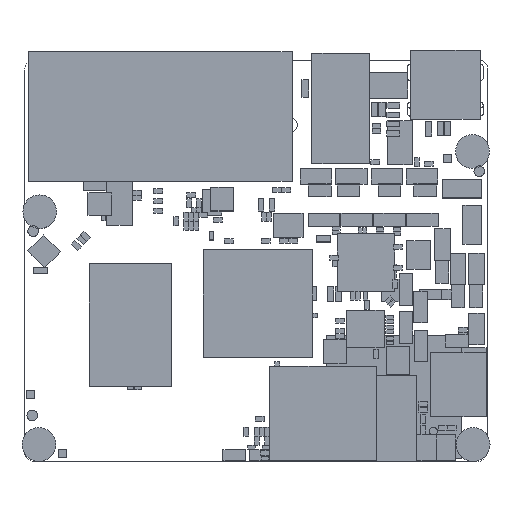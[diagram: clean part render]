
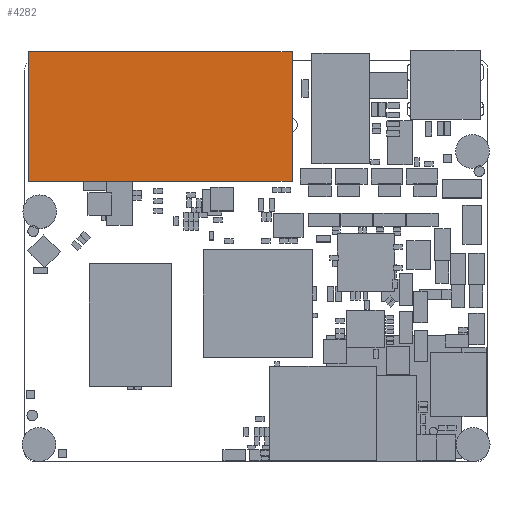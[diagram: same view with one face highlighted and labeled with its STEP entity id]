
A CAD part, top view. The second image highlights one B-rep face of the part: STEP entity #4282.
In plain terms, the highlighted planar face has unit normal (0, 0, 1).
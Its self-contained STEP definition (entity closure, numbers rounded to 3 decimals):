
#3129=FACE_OUTER_BOUND($,#3624,.F.);
#3624=EDGE_LOOP($,(#8764,#8765,#8766,#8767));
#3895=PLANE($,#6919);
#4282=ADVANCED_FACE($,(#3129),#3895,.T.);
#4976=VECTOR($,#12392,32.512);
#4977=VECTOR($,#12393,16.002);
#4978=VECTOR($,#12394,32.512);
#4979=VECTOR($,#12395,16.002);
#5749=LINE($,#13966,#4976);
#5750=LINE($,#13967,#4977);
#5751=LINE($,#13968,#4978);
#5752=LINE($,#13969,#4979);
#6919=AXIS2_PLACEMENT_3D($,#13967,#11384,$);
#8764=ORIENTED_EDGE($,*,*,#9893,.T.);
#8765=ORIENTED_EDGE($,*,*,#9894,.T.);
#8766=ORIENTED_EDGE($,*,*,#9895,.T.);
#8767=ORIENTED_EDGE($,*,*,#9896,.T.);
#9893=EDGE_CURVE($,#10725,#10726,#5749,.T.);
#9894=EDGE_CURVE($,#10726,#10727,#5750,.T.);
#9895=EDGE_CURVE($,#10727,#10728,#5751,.T.);
#9896=EDGE_CURVE($,#10728,#10725,#5752,.T.);
#10725=VERTEX_POINT($,#13966);
#10726=VERTEX_POINT($,#13967);
#10727=VERTEX_POINT($,#13968);
#10728=VERTEX_POINT($,#13969);
#11384=DIRECTION($,(0.,0.,1.));
#12392=DIRECTION($,(1.,0.,0.));
#12393=DIRECTION($,(0.,-1.,0.));
#12394=DIRECTION($,(-1.,0.,0.));
#12395=DIRECTION($,(0.,1.,0.));
#13966=CARTESIAN_POINT('',(-16.256,4.699,3.81));
#13967=CARTESIAN_POINT('',(16.256,4.699,3.81));
#13968=CARTESIAN_POINT('',(16.256,-11.303,3.81));
#13969=CARTESIAN_POINT('',(-16.256,-11.303,3.81));
